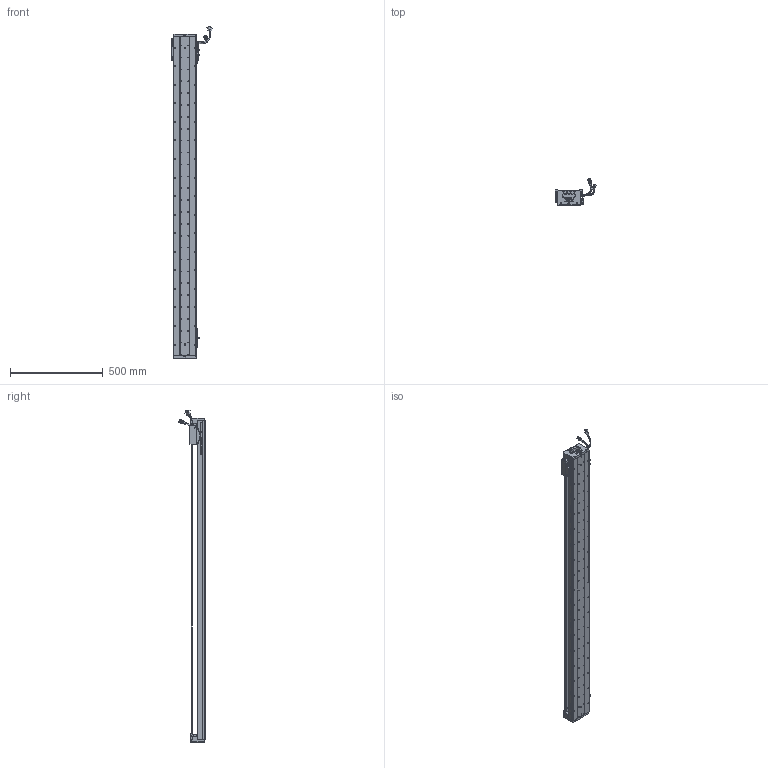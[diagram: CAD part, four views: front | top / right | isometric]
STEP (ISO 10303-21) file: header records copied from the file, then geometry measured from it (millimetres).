
FILE_DESCRIPTION (( 'STEP AP203' ), '1' );
FILE_NAME ('Z1-RY120D-1-L500-B-K.SLDASM_1550.step', '2021-05-17T03:47:55', ( '盈信电脑' ), ( '东莞市道滘镇水果街19号' ), 'SwSTEP 2.0', 'SolidWorks 2016', '' );
FILE_SCHEMA (( 'CONFIG_CONTROL_DESIGN' ));
Length unit declared in the file: millimetre
Products named in the file (37): COVER; HOLDER0; COVER-Part-1; SEAL; 120-Z-臏賑輸盄裔(21遴); LABEL; 140雄赽晤鎢ん堤盄; 140蚥薯蝶輸; PSLH080_PSLF2; Z-120詩湍傷裔啣; SCREW-M1.6-3; 覜茼ん672; HARNESS-Part-2; Z-RY120D詩湍奻揤裔; Z1-RY120铝滑块（21款）; LABEL-Part-1; SCREW-M1.6-1; 672嫖萇羲壽假蚾釱; Z1-RY120-500-倰第菁釱_1550; Z-RY120D詩湍狟揤裔; SCREW-M1.7-1; HARNESS; Z1-RY120-L500詩湍100mm遵_1550; SCALE; SEAL-Part-1; HARNESS-Part-1; SCALE-Part-2; SCALE-Part-1; RY100FB-遵嫖萇覜茼え; 080黍杅芛假蚾釱21遴; 榋妏寠巭燃_暯_M2_2; SCREW-M1.7; SHIELDPLATE; Z1-RY120D-1-L500-B-K.SLDASM_1550; PBU_SHEET; SCREW-M1.6; SCREW-M1.6-2
Assembly tree (43 placements, depth 4):
  Z1-RY120D-1-L500-B-K.SLDASM_1550
    Z1-RY120-500-倰第菁釱_1550
    覜茼ん672  x3
    672嫖萇羲壽假蚾釱  x2
    Z1-RY120铝滑块（21款）
    PSLH080_PSLF2
      SCALE
        SCALE-Part-1
        SCALE-Part-2
      HARNESS
        HARNESS-Part-1
        HARNESS-Part-2
      LABEL
        LABEL-Part-1
      COVER
        COVER-Part-1
      SEAL
        SEAL-Part-1
      榋妏寠巭燃_暯_M2_2
      SHIELDPLATE
      SCREW-M1.7
      SCREW-M1.7-1
      PBU_SHEET
      SCREW-M1.6
      SCREW-M1.6-1
      SCREW-M1.6-2
      SCREW-M1.6-3
      HOLDER0
    080黍杅芛假蚾釱21遴
    120-Z-臏賑輸盄裔(21遴)
    140雄赽晤鎢ん堤盄
    140蚥薯蝶輸  x2
    RY100FB-遵嫖萇覜茼え
    Z-120詩湍傷裔啣  x2
    Z-RY120D詩湍奻揤裔  x2
    Z-RY120D詩湍狟揤裔  x2
    Z1-RY120-L500詩湍100mm遵_1550
Bounding box: 222.86 x 140.94 x 1788.99 mm (x, y, z)
Volume: 4160137.2 mm3; surface area: 1481627.4 mm2
Topology: 38 solids, 38 shells, 3117 faces, 8674 edges, 5480 vertices
Faces by surface type: cylinder 1518, plane 1167, cone 310, torus 69, bspline 53
Entity records: 99347 total; most frequent: CARTESIAN_POINT 28832, ORIENTED_EDGE 14252, DIRECTION 13416, EDGE_CURVE 7126, AXIS2_PLACEMENT_3D 4914, VERTEX_POINT 4600, VECTOR 3588, LINE 3588
